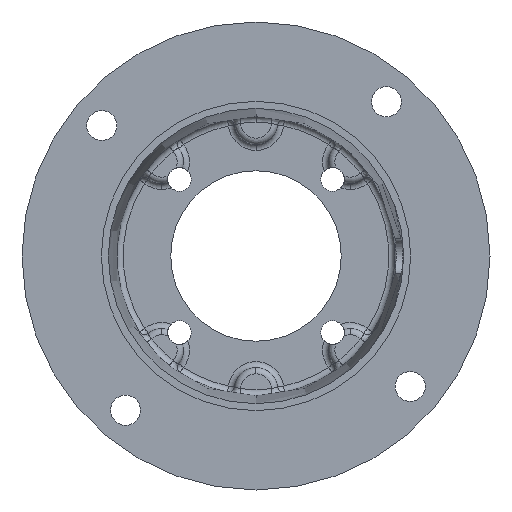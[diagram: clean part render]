
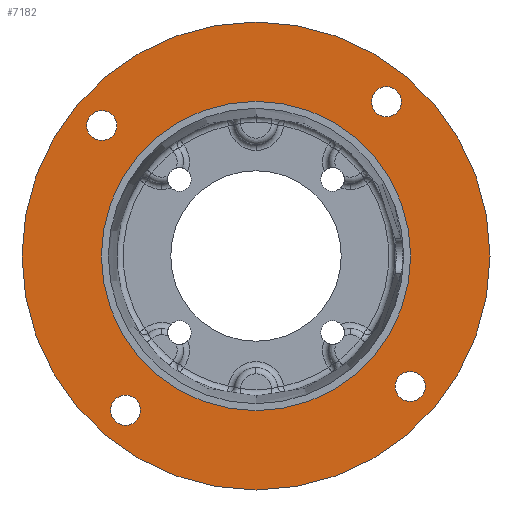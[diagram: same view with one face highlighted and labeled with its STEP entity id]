
A CAD part, front view. The second image highlights one B-rep face of the part: STEP entity #7182.
In plain terms, the highlighted planar face has unit normal (0, -1, 0).
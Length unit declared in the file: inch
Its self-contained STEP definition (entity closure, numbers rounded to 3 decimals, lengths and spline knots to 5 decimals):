
#26 = VERTEX_POINT ( 'NONE', #3578 ) ;
#51 = DIRECTION ( 'NONE',  ( 0., -1., 0. ) ) ;
#80 = CIRCLE ( 'NONE', #5367, 0.21875 ) ;
#106 = ORIENTED_EDGE ( 'NONE', *, *, #7841, .F. ) ;
#177 = DIRECTION ( 'NONE',  ( 0., -1., 0. ) ) ;
#212 = CARTESIAN_POINT ( 'NONE',  ( 2.24475, 0.103, -2.11736 ) ) ;
#222 = CARTESIAN_POINT ( 'NONE',  ( 0., 0.103, -3.405 ) ) ;
#287 = PLANE ( 'NONE',  #7533 ) ;
#337 = AXIS2_PLACEMENT_3D ( 'NONE', #7556, #3761, #8183 ) ;
#340 = AXIS2_PLACEMENT_3D ( 'NONE', #3833, #51, #4474 ) ;
#355 = CARTESIAN_POINT ( 'NONE',  ( -2.24475, 0.103, 2.11736 ) ) ;
#383 = EDGE_CURVE ( 'NONE', #3437, #3829, #4011, .T. ) ;
#440 = CARTESIAN_POINT ( 'NONE',  ( -2.24475, 0.103, 1.89861 ) ) ;
#574 = CIRCLE ( 'NONE', #3383, 2.2505 ) ;
#637 = EDGE_CURVE ( 'NONE', #3454, #6838, #4493, .T. ) ;
#696 = ORIENTED_EDGE ( 'NONE', *, *, #4256, .T. ) ;
#1055 = ORIENTED_EDGE ( 'NONE', *, *, #2191, .F. ) ;
#1069 = ORIENTED_EDGE ( 'NONE', *, *, #637, .F. ) ;
#1085 = DIRECTION ( 'NONE',  ( 0., 0., -1. ) ) ;
#1399 = DIRECTION ( 'NONE',  ( 0., -1., 0. ) ) ;
#1571 = DIRECTION ( 'NONE',  ( 0., 0., -1. ) ) ;
#1609 = FACE_BOUND ( 'NONE', #4882, .T. ) ;
#1967 = DIRECTION ( 'NONE',  ( 0., -1., 0. ) ) ;
#1973 = CARTESIAN_POINT ( 'NONE',  ( 0., 0.103, 0. ) ) ;
#2036 = CARTESIAN_POINT ( 'NONE',  ( -1.89861, 0.103, -2.24475 ) ) ;
#2050 = DIRECTION ( 'NONE',  ( 0., -1., 0. ) ) ;
#2087 = EDGE_CURVE ( 'NONE', #7244, #5746, #6228, .T. ) ;
#2191 = EDGE_CURVE ( 'NONE', #5746, #7244, #7502, .T. ) ;
#2196 = CIRCLE ( 'NONE', #337, 0.21875 ) ;
#2288 = CARTESIAN_POINT ( 'NONE',  ( 1.89861, 0.103, 2.4635 ) ) ;
#2377 = VERTEX_POINT ( 'NONE', #355 ) ;
#2405 = ORIENTED_EDGE ( 'NONE', *, *, #4189, .F. ) ;
#2457 = EDGE_CURVE ( 'NONE', #2377, #3459, #6719, .T. ) ;
#2546 = EDGE_LOOP ( 'NONE', ( #106, #4865 ) ) ;
#2603 = ORIENTED_EDGE ( 'NONE', *, *, #2087, .F. ) ;
#2610 = DIRECTION ( 'NONE',  ( 0., 0., -1. ) ) ;
#2654 = ORIENTED_EDGE ( 'NONE', *, *, #383, .T. ) ;
#2670 = DIRECTION ( 'NONE',  ( 0., 0., -1. ) ) ;
#2926 = CARTESIAN_POINT ( 'NONE',  ( -1.89861, 0.103, -2.026 ) ) ;
#2951 = CIRCLE ( 'NONE', #5185, 0.21875 ) ;
#3003 = EDGE_LOOP ( 'NONE', ( #5309, #3805 ) ) ;
#3155 = CARTESIAN_POINT ( 'NONE',  ( 0., 0.103, -2.2505 ) ) ;
#3241 = FACE_BOUND ( 'NONE', #5494, .T. ) ;
#3264 = AXIS2_PLACEMENT_3D ( 'NONE', #5848, #2050, #6481 ) ;
#3368 = AXIS2_PLACEMENT_3D ( 'NONE', #5762, #1967, #6392 ) ;
#3383 = AXIS2_PLACEMENT_3D ( 'NONE', #3737, #8160, #4377 ) ;
#3434 = CARTESIAN_POINT ( 'NONE',  ( 0., 0.103, 0. ) ) ;
#3436 = CARTESIAN_POINT ( 'NONE',  ( -1.89861, 0.103, -2.4635 ) ) ;
#3437 = VERTEX_POINT ( 'NONE', #6831 ) ;
#3454 = VERTEX_POINT ( 'NONE', #4311 ) ;
#3459 = VERTEX_POINT ( 'NONE', #3672 ) ;
#3578 = CARTESIAN_POINT ( 'NONE',  ( 1.89861, 0.103, 2.026 ) ) ;
#3582 = EDGE_LOOP ( 'NONE', ( #696, #2654 ) ) ;
#3599 = EDGE_LOOP ( 'NONE', ( #7240, #1069 ) ) ;
#3606 = AXIS2_PLACEMENT_3D ( 'NONE', #3974, #177, #4603 ) ;
#3637 = CIRCLE ( 'NONE', #3606, 0.21875 ) ;
#3672 = CARTESIAN_POINT ( 'NONE',  ( -2.24475, 0.103, 1.67986 ) ) ;
#3713 = EDGE_CURVE ( 'NONE', #7630, #5961, #2951, .T. ) ;
#3723 = CARTESIAN_POINT ( 'NONE',  ( -2.24475, 0.103, 1.89861 ) ) ;
#3737 = CARTESIAN_POINT ( 'NONE',  ( 0., 0.103, 0. ) ) ;
#3761 = DIRECTION ( 'NONE',  ( 0., -1., 0. ) ) ;
#3805 = ORIENTED_EDGE ( 'NONE', *, *, #5401, .F. ) ;
#3829 = VERTEX_POINT ( 'NONE', #222 ) ;
#3833 = CARTESIAN_POINT ( 'NONE',  ( 2.24475, 0.103, -1.89861 ) ) ;
#3974 = CARTESIAN_POINT ( 'NONE',  ( 1.89861, 0.103, 2.24475 ) ) ;
#4011 = CIRCLE ( 'NONE', #4812, 3.405 ) ;
#4089 = DIRECTION ( 'NONE',  ( 0., 0., -1. ) ) ;
#4189 = EDGE_CURVE ( 'NONE', #26, #6585, #3637, .T. ) ;
#4256 = EDGE_CURVE ( 'NONE', #3829, #3437, #6819, .T. ) ;
#4311 = CARTESIAN_POINT ( 'NONE',  ( 0., 0.103, 2.2505 ) ) ;
#4363 = DIRECTION ( 'NONE',  ( 0., 0., -1. ) ) ;
#4377 = DIRECTION ( 'NONE',  ( 0., 0., -1. ) ) ;
#4474 = DIRECTION ( 'NONE',  ( 0., 0., -1. ) ) ;
#4493 = CIRCLE ( 'NONE', #3368, 2.2505 ) ;
#4603 = DIRECTION ( 'NONE',  ( 0., 0., -1. ) ) ;
#4670 = ORIENTED_EDGE ( 'NONE', *, *, #7025, .F. ) ;
#4699 = CARTESIAN_POINT ( 'NONE',  ( 0., 0.103, 0. ) ) ;
#4748 = FACE_OUTER_BOUND ( 'NONE', #3582, .T. ) ;
#4812 = AXIS2_PLACEMENT_3D ( 'NONE', #1973, #6398, #2610 ) ;
#4839 = DIRECTION ( 'NONE',  ( 0., -1., 0. ) ) ;
#4865 = ORIENTED_EDGE ( 'NONE', *, *, #2457, .F. ) ;
#4882 = EDGE_LOOP ( 'NONE', ( #1055, #2603 ) ) ;
#4941 = FACE_BOUND ( 'NONE', #2546, .T. ) ;
#5166 = CARTESIAN_POINT ( 'NONE',  ( -1.89861, 0.103, -2.24475 ) ) ;
#5185 = AXIS2_PLACEMENT_3D ( 'NONE', #2036, #6464, #2670 ) ;
#5248 = EDGE_CURVE ( 'NONE', #6838, #3454, #574, .T. ) ;
#5299 = AXIS2_PLACEMENT_3D ( 'NONE', #3434, #7882, #4089 ) ;
#5309 = ORIENTED_EDGE ( 'NONE', *, *, #3713, .F. ) ;
#5339 = DIRECTION ( 'NONE',  ( 0., -1., 0. ) ) ;
#5367 = AXIS2_PLACEMENT_3D ( 'NONE', #3723, #8143, #4363 ) ;
#5401 = EDGE_CURVE ( 'NONE', #5961, #7630, #8167, .T. ) ;
#5494 = EDGE_LOOP ( 'NONE', ( #2405, #4670 ) ) ;
#5567 = AXIS2_PLACEMENT_3D ( 'NONE', #440, #4839, #1085 ) ;
#5746 = VERTEX_POINT ( 'NONE', #212 ) ;
#5762 = CARTESIAN_POINT ( 'NONE',  ( 0., 0.103, 0. ) ) ;
#5816 = DIRECTION ( 'NONE',  ( 0., 0., -1. ) ) ;
#5848 = CARTESIAN_POINT ( 'NONE',  ( 2.24475, 0.103, -1.89861 ) ) ;
#5961 = VERTEX_POINT ( 'NONE', #2926 ) ;
#6055 = CARTESIAN_POINT ( 'NONE',  ( 2.24475, 0.103, -1.67986 ) ) ;
#6228 = CIRCLE ( 'NONE', #340, 0.21875 ) ;
#6392 = DIRECTION ( 'NONE',  ( 0., 0., -1. ) ) ;
#6398 = DIRECTION ( 'NONE',  ( 0., -1., 0. ) ) ;
#6433 = FACE_BOUND ( 'NONE', #3599, .T. ) ;
#6464 = DIRECTION ( 'NONE',  ( 0., -1., 0. ) ) ;
#6481 = DIRECTION ( 'NONE',  ( 0., 0., -1. ) ) ;
#6585 = VERTEX_POINT ( 'NONE', #2288 ) ;
#6719 = CIRCLE ( 'NONE', #5567, 0.21875 ) ;
#6804 = AXIS2_PLACEMENT_3D ( 'NONE', #5166, #1399, #5816 ) ;
#6819 = CIRCLE ( 'NONE', #5299, 3.405 ) ;
#6831 = CARTESIAN_POINT ( 'NONE',  ( 0., 0.103, 3.405 ) ) ;
#6838 = VERTEX_POINT ( 'NONE', #3155 ) ;
#7025 = EDGE_CURVE ( 'NONE', #6585, #26, #2196, .T. ) ;
#7182 = ADVANCED_FACE ( 'NONE', ( #3241, #4941, #1609, #8113, #6433, #4748 ), #287, .T. ) ;
#7240 = ORIENTED_EDGE ( 'NONE', *, *, #5248, .F. ) ;
#7244 = VERTEX_POINT ( 'NONE', #6055 ) ;
#7502 = CIRCLE ( 'NONE', #3264, 0.21875 ) ;
#7533 = AXIS2_PLACEMENT_3D ( 'NONE', #4699, #5339, #1571 ) ;
#7556 = CARTESIAN_POINT ( 'NONE',  ( 1.89861, 0.103, 2.24475 ) ) ;
#7630 = VERTEX_POINT ( 'NONE', #3436 ) ;
#7841 = EDGE_CURVE ( 'NONE', #3459, #2377, #80, .T. ) ;
#7882 = DIRECTION ( 'NONE',  ( 0., -1., 0. ) ) ;
#8113 = FACE_BOUND ( 'NONE', #3003, .T. ) ;
#8143 = DIRECTION ( 'NONE',  ( 0., -1., 0. ) ) ;
#8160 = DIRECTION ( 'NONE',  ( 0., -1., 0. ) ) ;
#8167 = CIRCLE ( 'NONE', #6804, 0.21875 ) ;
#8183 = DIRECTION ( 'NONE',  ( 0., 0., -1. ) ) ;
